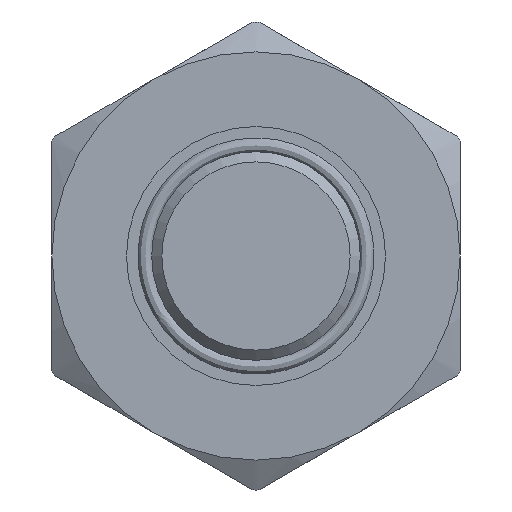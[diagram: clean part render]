
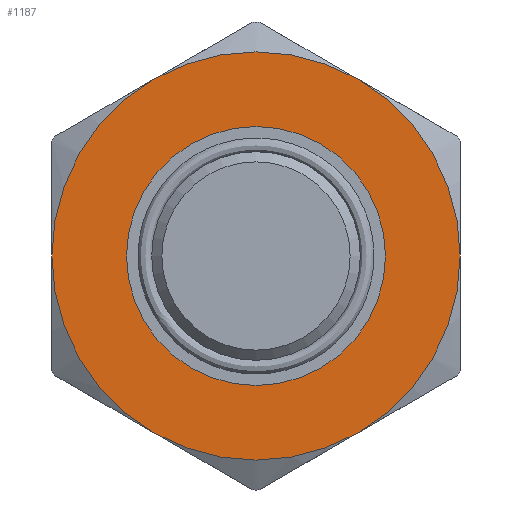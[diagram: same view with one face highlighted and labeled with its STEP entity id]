
A CAD part, left-side view. The second image highlights one B-rep face of the part: STEP entity #1187.
In plain terms, the highlighted planar face has unit normal (-1, 0, 0).
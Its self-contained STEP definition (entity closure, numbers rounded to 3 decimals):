
#277=FACE_BOUND('',#505,.T.);
#361=FACE_OUTER_BOUND('',#504,.T.);
#504=EDGE_LOOP('',(#1062,#1063,#1064,#1065,#1066,#1067));
#505=EDGE_LOOP('',(#1068));
#572=CIRCLE('',#1324,20.5);
#574=CIRCLE('',#1327,20.5);
#576=CIRCLE('',#1330,20.5);
#578=CIRCLE('',#1333,20.5);
#581=CIRCLE('',#1337,20.5);
#588=CIRCLE('',#1356,13.);
#589=CIRCLE('',#1358,20.5);
#661=VERTEX_POINT('',#2447);
#666=VERTEX_POINT('',#2467);
#671=VERTEX_POINT('',#2487);
#676=VERTEX_POINT('',#2507);
#679=VERTEX_POINT('',#2521);
#685=VERTEX_POINT('',#2542);
#689=VERTEX_POINT('',#2593);
#800=EDGE_CURVE('',#676,#679,#572,.T.);
#802=EDGE_CURVE('',#679,#685,#574,.T.);
#804=EDGE_CURVE('',#671,#676,#576,.T.);
#806=EDGE_CURVE('',#661,#671,#578,.T.);
#809=EDGE_CURVE('',#685,#666,#581,.T.);
#816=EDGE_CURVE('',#689,#689,#588,.T.);
#817=EDGE_CURVE('',#666,#661,#589,.T.);
#1062=ORIENTED_EDGE('',*,*,#802,.F.);
#1063=ORIENTED_EDGE('',*,*,#800,.F.);
#1064=ORIENTED_EDGE('',*,*,#804,.F.);
#1065=ORIENTED_EDGE('',*,*,#806,.F.);
#1066=ORIENTED_EDGE('',*,*,#817,.F.);
#1067=ORIENTED_EDGE('',*,*,#809,.F.);
#1068=ORIENTED_EDGE('',*,*,#816,.T.);
#1101=PLANE('',#1357);
#1187=ADVANCED_FACE('',(#361,#277),#1101,.T.);
#1324=AXIS2_PLACEMENT_3D('',#2561,#1638,#1639);
#1327=AXIS2_PLACEMENT_3D('',#2564,#1644,#1645);
#1330=AXIS2_PLACEMENT_3D('',#2567,#1650,#1651);
#1333=AXIS2_PLACEMENT_3D('',#2570,#1656,#1657);
#1337=AXIS2_PLACEMENT_3D('',#2574,#1664,#1665);
#1356=AXIS2_PLACEMENT_3D('',#2594,#1702,#1703);
#1357=AXIS2_PLACEMENT_3D('',#2595,#1704,#1705);
#1358=AXIS2_PLACEMENT_3D('',#2596,#1706,#1707);
#1638=DIRECTION('center_axis',(1.,0.,0.));
#1639=DIRECTION('ref_axis',(0.,1.,0.));
#1644=DIRECTION('center_axis',(1.,0.,0.));
#1645=DIRECTION('ref_axis',(0.,1.,0.));
#1650=DIRECTION('center_axis',(1.,0.,0.));
#1651=DIRECTION('ref_axis',(0.,1.,0.));
#1656=DIRECTION('center_axis',(1.,0.,0.));
#1657=DIRECTION('ref_axis',(0.,1.,0.));
#1664=DIRECTION('center_axis',(1.,0.,0.));
#1665=DIRECTION('ref_axis',(0.,1.,0.));
#1702=DIRECTION('center_axis',(1.,0.,0.));
#1703=DIRECTION('ref_axis',(0.,1.,0.));
#1704=DIRECTION('center_axis',(-1.,0.,0.));
#1705=DIRECTION('ref_axis',(0.,0.,1.));
#1706=DIRECTION('center_axis',(1.,0.,0.));
#1707=DIRECTION('ref_axis',(0.,1.,0.));
#2447=CARTESIAN_POINT('',(17.,-20.5,0.));
#2467=CARTESIAN_POINT('',(17.,-10.25,17.754));
#2487=CARTESIAN_POINT('',(17.,-10.25,-17.754));
#2507=CARTESIAN_POINT('',(17.,10.25,-17.754));
#2521=CARTESIAN_POINT('',(17.,20.5,0.));
#2542=CARTESIAN_POINT('',(17.,10.25,17.754));
#2561=CARTESIAN_POINT('Origin',(17.,0.,0.));
#2564=CARTESIAN_POINT('Origin',(17.,0.,0.));
#2567=CARTESIAN_POINT('Origin',(17.,0.,0.));
#2570=CARTESIAN_POINT('Origin',(17.,0.,0.));
#2574=CARTESIAN_POINT('Origin',(17.,0.,0.));
#2593=CARTESIAN_POINT('',(17.,13.,0.));
#2594=CARTESIAN_POINT('Origin',(17.,0.,0.));
#2595=CARTESIAN_POINT('Origin',(17.,16.75,0.));
#2596=CARTESIAN_POINT('Origin',(17.,0.,0.));
